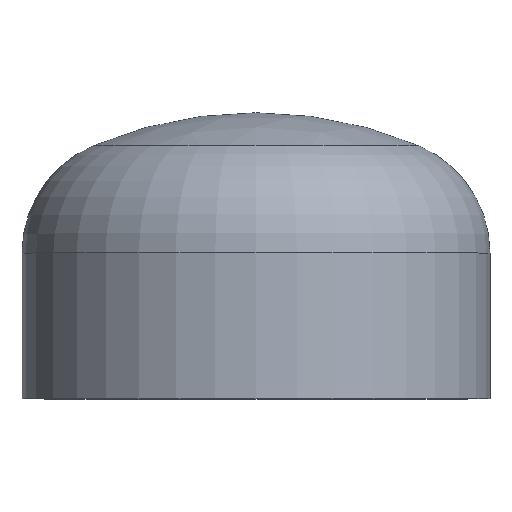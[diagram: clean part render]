
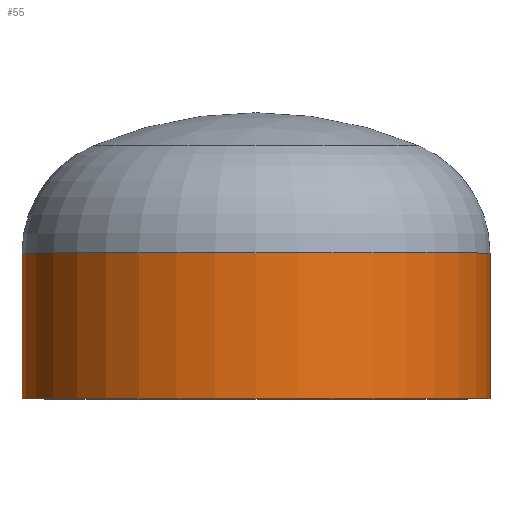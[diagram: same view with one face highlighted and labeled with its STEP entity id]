
A CAD part, top view. The second image highlights one B-rep face of the part: STEP entity #55.
In plain terms, the highlighted cylindrical face has radius 136.5 mm (diameter 273 mm), a partial arc.
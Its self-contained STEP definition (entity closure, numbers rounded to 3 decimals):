
#9 = AXIS2_PLACEMENT_3D ( 'NONE', #141, #155, #153 ) ;
#41 = LINE ( 'NONE', #357, #174 ) ;
#46 = VERTEX_POINT ( 'NONE', #242 ) ;
#55 = ADVANCED_FACE ( 'NONE', ( #246 ), #301, .T. ) ;
#60 = VERTEX_POINT ( 'NONE', #220 ) ;
#63 = AXIS2_PLACEMENT_3D ( 'NONE', #278, #291, #288 ) ;
#66 = VERTEX_POINT ( 'NONE', #395 ) ;
#73 = ORIENTED_EDGE ( 'NONE', *, *, #103, .F. ) ;
#78 = AXIS2_PLACEMENT_3D ( 'NONE', #216, #192, #179 ) ;
#100 = VECTOR ( 'NONE', #305, 1000. ) ;
#103 = EDGE_CURVE ( 'NONE', #46, #111, #293, .T. ) ;
#110 = ORIENTED_EDGE ( 'NONE', *, *, #280, .T. ) ;
#111 = VERTEX_POINT ( 'NONE', #286 ) ;
#117 = ORIENTED_EDGE ( 'NONE', *, *, #388, .T. ) ;
#120 = EDGE_LOOP ( 'NONE', ( #117, #110, #73, #123 ) ) ;
#123 = ORIENTED_EDGE ( 'NONE', *, *, #367, .F. ) ;
#141 = CARTESIAN_POINT ( 'NONE',  ( 0., 85., 0. ) ) ;
#153 = DIRECTION ( 'NONE',  ( 1., 0., 0. ) ) ;
#155 = DIRECTION ( 'NONE',  ( 0., -1., 0. ) ) ;
#174 = VECTOR ( 'NONE', #236, 1000. ) ;
#179 = DIRECTION ( 'NONE',  ( 1., 0., 0. ) ) ;
#192 = DIRECTION ( 'NONE',  ( 0., -1., 0. ) ) ;
#197 = LINE ( 'NONE', #304, #100 ) ;
#216 = CARTESIAN_POINT ( 'NONE',  ( 0., 0., 0. ) ) ;
#220 = CARTESIAN_POINT ( 'NONE',  ( -136.5, 85., 0. ) ) ;
#236 = DIRECTION ( 'NONE',  ( 0., -1., 0. ) ) ;
#242 = CARTESIAN_POINT ( 'NONE',  ( 136.5, 0., 0. ) ) ;
#246 = FACE_OUTER_BOUND ( 'NONE', #120, .T. ) ;
#247 = CIRCLE ( 'NONE', #9, 136.5 ) ;
#278 = CARTESIAN_POINT ( 'NONE',  ( 0., 0., 0. ) ) ;
#280 = EDGE_CURVE ( 'NONE', #60, #111, #197, .T. ) ;
#286 = CARTESIAN_POINT ( 'NONE',  ( -136.5, 0., 0. ) ) ;
#288 = DIRECTION ( 'NONE',  ( 1., 0., 0. ) ) ;
#291 = DIRECTION ( 'NONE',  ( 0., -1., 0. ) ) ;
#293 = CIRCLE ( 'NONE', #63, 136.5 ) ;
#301 = CYLINDRICAL_SURFACE ( 'NONE', #78, 136.5 ) ;
#304 = CARTESIAN_POINT ( 'NONE',  ( -136.5, 0., 0. ) ) ;
#305 = DIRECTION ( 'NONE',  ( 0., -1., 0. ) ) ;
#357 = CARTESIAN_POINT ( 'NONE',  ( 136.5, 0., 0. ) ) ;
#367 = EDGE_CURVE ( 'NONE', #66, #46, #41, .T. ) ;
#388 = EDGE_CURVE ( 'NONE', #66, #60, #247, .T. ) ;
#395 = CARTESIAN_POINT ( 'NONE',  ( 136.5, 85., 0. ) ) ;
